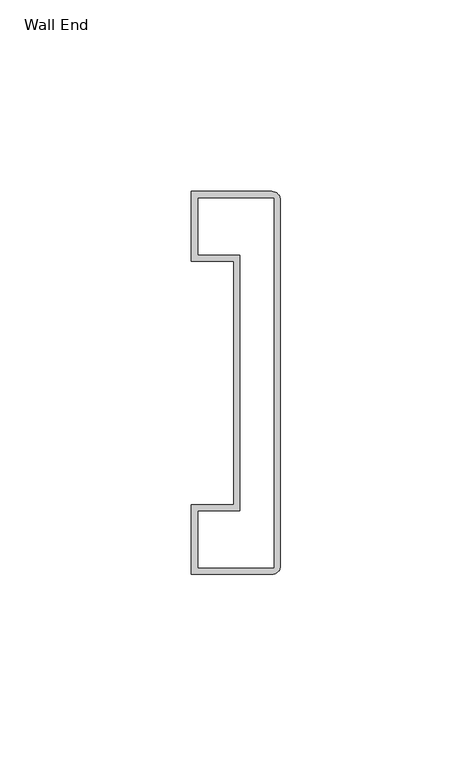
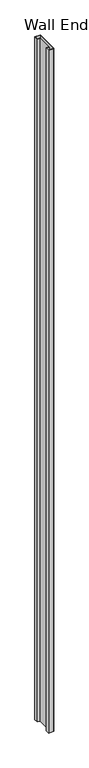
"""IFC4 building model written with IfcOpenShell, lengths in millimetres: proxy geometry, Connection-Wall_End-Teknion-OptosLP-FYFE : Wall End."""

from ifc_helpers import new_model, si_unit, point, frame_2d, origin, origin_with_axes, place, context, project, spatial, polyline, circle_curve, trimmed, segment, composite_curve, outline, extrude, source, transform, mapped, element, save


def wall_end_e3b99592(model_context):
    return source(origin(), model_context, "Body", "SweptSolid", [
        extrude(outline(composite_curve([segment(polyline([(3.2958739, 31.8944404), (3.2958739, 50.1443404), (24.2508739, 50.1443404)]), True, "CONTINUOUS"), segment(trimmed(circle_curve(frame_2d((24.2508739, 47.8583404)), 2.286), [point((24.2508739, 50.1443404))], [point((26.5368739, 47.8583404))], False, "CARTESIAN"), True, "CONTINUOUS"), segment(polyline([(26.5368739, 47.8583404), (26.5368739, -47.5694596)]), True, "CONTINUOUS"), segment(trimmed(circle_curve(frame_2d((24.2508739, -47.5694596)), 2.286), [point((26.5368739, -47.5694596))], [point((24.2508739, -49.8554596))], False, "CARTESIAN"), True, "CONTINUOUS"), segment(polyline([(24.2508739, -49.8554596), (3.2958739, -49.8554596), (3.2958739, -31.6055596), (14.2940739, -31.6055596), (14.2940739, 31.8944404), (3.2958739, 31.8944404)]), True, "CONTINUOUS")], self_intersect=False), holes=[polyline([(5.0738739, 33.6724404), (16.0720739, 33.6724404), (16.0720739, -33.3835596), (5.0738739, -33.3835596), (5.0738739, -48.0774596), (24.7588739, -48.0774596), (24.7588739, 48.3663404), (5.0738739, 48.3663404), (5.0738739, 33.6724404)])]), origin_with_axes(), (0.0, 0.0, 1.0), 3048.0),
    ])


if __name__ == "__main__":
    model = new_model("IFC4")
    model_context = context("Model", 3, world=origin())
    ifc_project = project(units=[si_unit("LENGTHUNIT", "METRE", prefix="MILLI")], contexts=[model_context])
    site = spatial("IfcSite", under=ifc_project)
    building = spatial("IfcBuilding", under=site)
    placement = place(None, origin())
    wall_end_shape = wall_end_e3b99592(model_context)
    element("IfcBuildingElementProxy", 1, Name="Connection-Wall_End-Teknion-OptosLP-FYFE : Wall End", ObjectType="Connection-Wall_End-Teknion-OptosLP-FYFE : Wall End", at=placement, inside=building, context=model_context, shape_type="MappedRepresentation", body=[
        mapped(wall_end_shape, transform((0.0, 0.0, 0.0), x_axis=(1.0, 0.0, 0.0), y_axis=(0.0, 1.0, 0.0), z_axis=(0.0, 0.0, 1.0))),
    ])
    save(model, "model.ifc")
